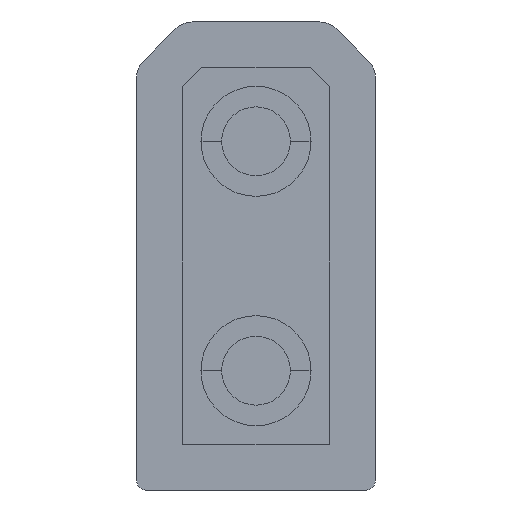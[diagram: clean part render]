
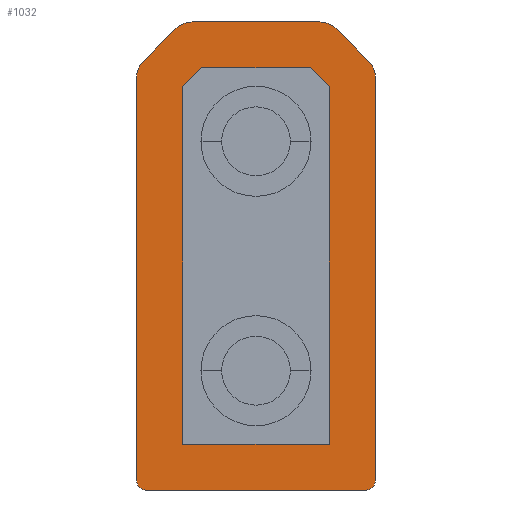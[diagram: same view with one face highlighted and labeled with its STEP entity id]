
A CAD part, front view. The second image highlights one B-rep face of the part: STEP entity #1032.
In plain terms, the highlighted planar face has unit normal (0, -1, 0).
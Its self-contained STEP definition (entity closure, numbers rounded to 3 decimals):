
#112 = VERTEX_POINT ( 'NONE', #6797 ) ;
#147 = FACE_BOUND ( 'NONE', #5143, .T. ) ;
#202 = EDGE_CURVE ( 'NONE', #4351, #6883, #6045, .T. ) ;
#259 = VECTOR ( 'NONE', #2074, 1000. ) ;
#319 = DIRECTION ( 'NONE',  ( 0., 0., -1. ) ) ;
#322 = EDGE_CURVE ( 'NONE', #6700, #112, #4046, .T. ) ;
#429 = CARTESIAN_POINT ( 'NONE',  ( -1.6, 0., 8.786 ) ) ;
#559 = ORIENTED_EDGE ( 'NONE', *, *, #5488, .F. ) ;
#580 = DIRECTION ( 'NONE',  ( 0., 0., -1. ) ) ;
#635 = ORIENTED_EDGE ( 'NONE', *, *, #1905, .F. ) ;
#726 = ORIENTED_EDGE ( 'NONE', *, *, #3453, .F. ) ;
#752 = VECTOR ( 'NONE', #580, 1000. ) ;
#771 = CARTESIAN_POINT ( 'NONE',  ( 2.454, 0., 9.346 ) ) ;
#792 = CARTESIAN_POINT ( 'NONE',  ( -1.186, 0., 9.2 ) ) ;
#805 = CARTESIAN_POINT ( 'NONE',  ( -2.6, 0., 8.993 ) ) ;
#883 = CIRCLE ( 'NONE', #1634, 0.5 ) ;
#896 = DIRECTION ( 'NONE',  ( -1., 0., 0. ) ) ;
#922 = ORIENTED_EDGE ( 'NONE', *, *, #6756, .F. ) ;
#954 = LINE ( 'NONE', #7465, #5111 ) ;
#965 = EDGE_CURVE ( 'NONE', #4786, #4359, #4480, .T. ) ;
#1029 = CARTESIAN_POINT ( 'NONE',  ( 1.6, 0., 1. ) ) ;
#1032 = ADVANCED_FACE ( 'NONE', ( #147, #1597 ), #6645, .F. ) ;
#1257 = DIRECTION ( 'NONE',  ( -0.707, 0., 0.707 ) ) ;
#1328 = DIRECTION ( 'NONE',  ( -0.707, 0., -0.707 ) ) ;
#1336 = AXIS2_PLACEMENT_3D ( 'NONE', #6073, #3190, #4354 ) ;
#1450 = CARTESIAN_POINT ( 'NONE',  ( 1.393, 0., 10.2 ) ) ;
#1508 = VECTOR ( 'NONE', #4341, 1000. ) ;
#1567 = ORIENTED_EDGE ( 'NONE', *, *, #322, .F. ) ;
#1597 = FACE_OUTER_BOUND ( 'NONE', #3983, .T. ) ;
#1634 = AXIS2_PLACEMENT_3D ( 'NONE', #4901, #2055, #2001 ) ;
#1660 = CARTESIAN_POINT ( 'NONE',  ( -2.4, 0., 0. ) ) ;
#1685 = CIRCLE ( 'NONE', #1336, 0.5 ) ;
#1806 = DIRECTION ( 'NONE',  ( 0., 0., 1. ) ) ;
#1833 = VERTEX_POINT ( 'NONE', #1450 ) ;
#1905 = EDGE_CURVE ( 'NONE', #6971, #4351, #4193, .T. ) ;
#1943 = EDGE_CURVE ( 'NONE', #1833, #3958, #4933, .T. ) ;
#1975 = DIRECTION ( 'NONE',  ( 0., 0., 1. ) ) ;
#2001 = DIRECTION ( 'NONE',  ( 0., 0., 1. ) ) ;
#2007 = DIRECTION ( 'NONE',  ( 0., 1., 0. ) ) ;
#2021 = ORIENTED_EDGE ( 'NONE', *, *, #202, .F. ) ;
#2038 = DIRECTION ( 'NONE',  ( 0., 1., 0. ) ) ;
#2055 = DIRECTION ( 'NONE',  ( 0., 1., 0. ) ) ;
#2074 = DIRECTION ( 'NONE',  ( 0.707, 0., -0.707 ) ) ;
#2090 = CARTESIAN_POINT ( 'NONE',  ( -2.1, 0., 8.993 ) ) ;
#2125 = EDGE_CURVE ( 'NONE', #6480, #1833, #954, .T. ) ;
#2245 = LINE ( 'NONE', #6618, #1508 ) ;
#2248 = ORIENTED_EDGE ( 'NONE', *, *, #2758, .F. ) ;
#2341 = DIRECTION ( 'NONE',  ( 1., 0., 0. ) ) ;
#2345 = DIRECTION ( 'NONE',  ( 0., 1., 0. ) ) ;
#2426 = LINE ( 'NONE', #3236, #6395 ) ;
#2450 = DIRECTION ( 'NONE',  ( 0.707, 0., 0.707 ) ) ;
#2469 = VECTOR ( 'NONE', #1328, 1000. ) ;
#2478 = CARTESIAN_POINT ( 'NONE',  ( -1.746, 0., 10.054 ) ) ;
#2483 = CARTESIAN_POINT ( 'NONE',  ( 1.6, 0., 8.786 ) ) ;
#2497 = CARTESIAN_POINT ( 'NONE',  ( -2.454, 0., 9.346 ) ) ;
#2529 = CARTESIAN_POINT ( 'NONE',  ( 1.6, 0., 1. ) ) ;
#2641 = VERTEX_POINT ( 'NONE', #429 ) ;
#2658 = CARTESIAN_POINT ( 'NONE',  ( -1.6, 0., 8.786 ) ) ;
#2745 = ORIENTED_EDGE ( 'NONE', *, *, #5306, .F. ) ;
#2758 = EDGE_CURVE ( 'NONE', #2641, #5966, #4555, .T. ) ;
#2789 = AXIS2_PLACEMENT_3D ( 'NONE', #5049, #6835, #3345 ) ;
#2815 = CARTESIAN_POINT ( 'NONE',  ( -1.6, 0., 1. ) ) ;
#2829 = ORIENTED_EDGE ( 'NONE', *, *, #6086, .F. ) ;
#2866 = VECTOR ( 'NONE', #2450, 1000. ) ;
#2874 = AXIS2_PLACEMENT_3D ( 'NONE', #3773, #2038, #3101 ) ;
#2910 = ORIENTED_EDGE ( 'NONE', *, *, #5410, .F. ) ;
#2939 = CARTESIAN_POINT ( 'NONE',  ( -1.393, 0., 10.2 ) ) ;
#2998 = CARTESIAN_POINT ( 'NONE',  ( 1.6, 0., 8.786 ) ) ;
#3018 = CARTESIAN_POINT ( 'NONE',  ( -1.746, 0., 10.054 ) ) ;
#3067 = CARTESIAN_POINT ( 'NONE',  ( -1.186, 0., 9.2 ) ) ;
#3101 = DIRECTION ( 'NONE',  ( 0., 0., 1. ) ) ;
#3117 = EDGE_CURVE ( 'NONE', #3622, #6700, #6359, .T. ) ;
#3190 = DIRECTION ( 'NONE',  ( 0., 1., 0. ) ) ;
#3226 = DIRECTION ( 'NONE',  ( 0., 1., 0. ) ) ;
#3236 = CARTESIAN_POINT ( 'NONE',  ( 1.186, 0., 9.2 ) ) ;
#3275 = CARTESIAN_POINT ( 'NONE',  ( 2.6, 0., 8.993 ) ) ;
#3345 = DIRECTION ( 'NONE',  ( 0., 0., -1. ) ) ;
#3396 = DIRECTION ( 'NONE',  ( 0., 0., 1. ) ) ;
#3453 = EDGE_CURVE ( 'NONE', #5636, #2641, #3748, .T. ) ;
#3622 = VERTEX_POINT ( 'NONE', #3275 ) ;
#3646 = ORIENTED_EDGE ( 'NONE', *, *, #3117, .F. ) ;
#3723 = ORIENTED_EDGE ( 'NONE', *, *, #1943, .F. ) ;
#3748 = LINE ( 'NONE', #3067, #2469 ) ;
#3773 = CARTESIAN_POINT ( 'NONE',  ( 2.4, 0., 0.2 ) ) ;
#3805 = CARTESIAN_POINT ( 'NONE',  ( 2.454, 0., 9.346 ) ) ;
#3958 = VERTEX_POINT ( 'NONE', #6049 ) ;
#3983 = EDGE_LOOP ( 'NONE', ( #1567, #3646, #922, #2745, #3723, #4363, #2829, #5704, #6439, #4075, #559, #2910 ) ) ;
#4000 = DIRECTION ( 'NONE',  ( 1., 0., 0. ) ) ;
#4046 = CIRCLE ( 'NONE', #2874, 0.2 ) ;
#4075 = ORIENTED_EDGE ( 'NONE', *, *, #6159, .F. ) ;
#4193 = LINE ( 'NONE', #1029, #6830 ) ;
#4228 = VECTOR ( 'NONE', #4523, 1000. ) ;
#4319 = CIRCLE ( 'NONE', #7089, 0.2 ) ;
#4341 = DIRECTION ( 'NONE',  ( 0., 0., 1. ) ) ;
#4351 = VERTEX_POINT ( 'NONE', #2483 ) ;
#4354 = DIRECTION ( 'NONE',  ( 0., 0., 1. ) ) ;
#4359 = VERTEX_POINT ( 'NONE', #3018 ) ;
#4363 = ORIENTED_EDGE ( 'NONE', *, *, #2125, .F. ) ;
#4374 = CARTESIAN_POINT ( 'NONE',  ( -2.4, 0., 0. ) ) ;
#4433 = ORIENTED_EDGE ( 'NONE', *, *, #5709, .F. ) ;
#4480 = LINE ( 'NONE', #2478, #2866 ) ;
#4523 = DIRECTION ( 'NONE',  ( -1., 0., 0. ) ) ;
#4555 = LINE ( 'NONE', #2658, #6099 ) ;
#4581 = CIRCLE ( 'NONE', #6185, 0.5 ) ;
#4649 = AXIS2_PLACEMENT_3D ( 'NONE', #6087, #3226, #1975 ) ;
#4770 = VECTOR ( 'NONE', #1257, 1000. ) ;
#4786 = VERTEX_POINT ( 'NONE', #2497 ) ;
#4891 = VERTEX_POINT ( 'NONE', #805 ) ;
#4901 = CARTESIAN_POINT ( 'NONE',  ( -1.393, 0., 9.7 ) ) ;
#4933 = CIRCLE ( 'NONE', #2789, 0.5 ) ;
#4974 = DIRECTION ( 'NONE',  ( 0., 0., -1. ) ) ;
#5049 = CARTESIAN_POINT ( 'NONE',  ( 1.393, 0., 9.7 ) ) ;
#5073 = VERTEX_POINT ( 'NONE', #771 ) ;
#5111 = VECTOR ( 'NONE', #4000, 1000. ) ;
#5143 = EDGE_LOOP ( 'NONE', ( #635, #6440, #2248, #726, #4433, #2021 ) ) ;
#5186 = CARTESIAN_POINT ( 'NONE',  ( -1.6, 0., 1. ) ) ;
#5212 = LINE ( 'NONE', #2815, #5293 ) ;
#5293 = VECTOR ( 'NONE', #2341, 1000. ) ;
#5306 = EDGE_CURVE ( 'NONE', #3958, #5073, #7493, .T. ) ;
#5410 = EDGE_CURVE ( 'NONE', #112, #7427, #7397, .T. ) ;
#5488 = EDGE_CURVE ( 'NONE', #7427, #7460, #4319, .T. ) ;
#5522 = CARTESIAN_POINT ( 'NONE',  ( -2.6, 0., 0.2 ) ) ;
#5636 = VERTEX_POINT ( 'NONE', #792 ) ;
#5701 = CARTESIAN_POINT ( 'NONE',  ( 1.186, 0., 9.2 ) ) ;
#5704 = ORIENTED_EDGE ( 'NONE', *, *, #965, .F. ) ;
#5705 = EDGE_CURVE ( 'NONE', #4891, #4786, #4581, .T. ) ;
#5709 = EDGE_CURVE ( 'NONE', #6883, #5636, #2426, .T. ) ;
#5767 = CARTESIAN_POINT ( 'NONE',  ( 2.6, 0., 0.2 ) ) ;
#5966 = VERTEX_POINT ( 'NONE', #5186 ) ;
#6027 = CARTESIAN_POINT ( 'NONE',  ( 2.6, 0., 0.2 ) ) ;
#6045 = LINE ( 'NONE', #2998, #4770 ) ;
#6049 = CARTESIAN_POINT ( 'NONE',  ( 1.746, 0., 10.054 ) ) ;
#6073 = CARTESIAN_POINT ( 'NONE',  ( 2.1, 0., 8.993 ) ) ;
#6086 = EDGE_CURVE ( 'NONE', #4359, #6480, #883, .T. ) ;
#6087 = CARTESIAN_POINT ( 'NONE',  ( 2.4, 0., 0.2 ) ) ;
#6099 = VECTOR ( 'NONE', #4974, 1000. ) ;
#6159 = EDGE_CURVE ( 'NONE', #7460, #4891, #2245, .T. ) ;
#6185 = AXIS2_PLACEMENT_3D ( 'NONE', #2090, #2007, #319 ) ;
#6354 = CARTESIAN_POINT ( 'NONE',  ( -2.4, 0., 0.2 ) ) ;
#6359 = LINE ( 'NONE', #5767, #752 ) ;
#6395 = VECTOR ( 'NONE', #896, 1000. ) ;
#6439 = ORIENTED_EDGE ( 'NONE', *, *, #5705, .F. ) ;
#6440 = ORIENTED_EDGE ( 'NONE', *, *, #6904, .F. ) ;
#6480 = VERTEX_POINT ( 'NONE', #2939 ) ;
#6618 = CARTESIAN_POINT ( 'NONE',  ( -2.6, 0., 8.993 ) ) ;
#6645 = PLANE ( 'NONE',  #4649 ) ;
#6700 = VERTEX_POINT ( 'NONE', #6027 ) ;
#6756 = EDGE_CURVE ( 'NONE', #5073, #3622, #1685, .T. ) ;
#6797 = CARTESIAN_POINT ( 'NONE',  ( 2.4, 0., 0. ) ) ;
#6830 = VECTOR ( 'NONE', #3396, 1000. ) ;
#6835 = DIRECTION ( 'NONE',  ( 0., 1., 0. ) ) ;
#6883 = VERTEX_POINT ( 'NONE', #5701 ) ;
#6904 = EDGE_CURVE ( 'NONE', #5966, #6971, #5212, .T. ) ;
#6971 = VERTEX_POINT ( 'NONE', #2529 ) ;
#7089 = AXIS2_PLACEMENT_3D ( 'NONE', #6354, #2345, #1806 ) ;
#7397 = LINE ( 'NONE', #1660, #4228 ) ;
#7427 = VERTEX_POINT ( 'NONE', #4374 ) ;
#7460 = VERTEX_POINT ( 'NONE', #5522 ) ;
#7465 = CARTESIAN_POINT ( 'NONE',  ( 1.393, 0., 10.2 ) ) ;
#7493 = LINE ( 'NONE', #3805, #259 ) ;
